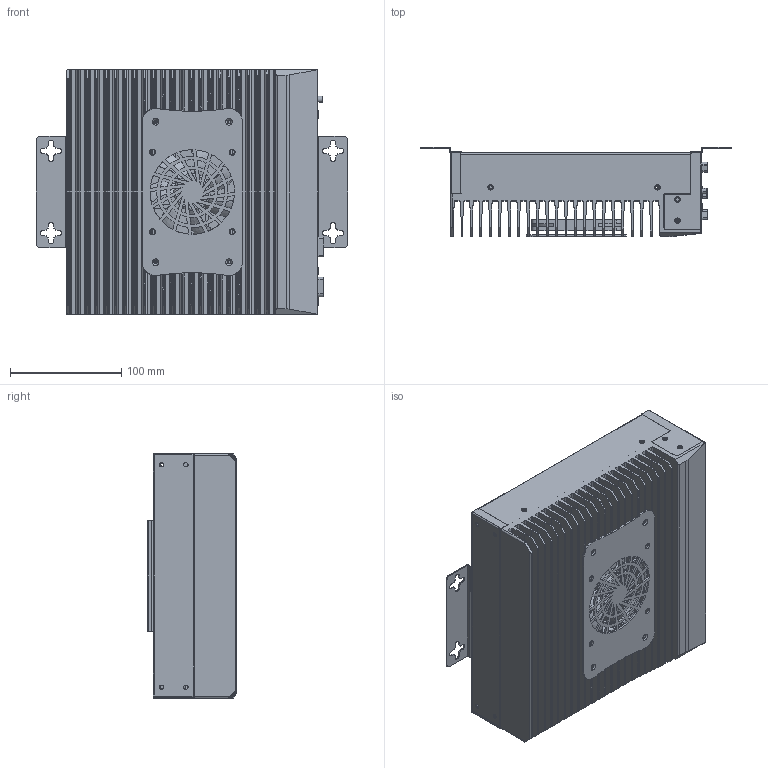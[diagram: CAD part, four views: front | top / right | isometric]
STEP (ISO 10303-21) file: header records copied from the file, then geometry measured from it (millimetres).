
FILE_DESCRIPTION((''),'2;1');
FILE_NAME('JIANHUA_1_1_1_1','2025-06-25T19:34:48',('Administrator'),(''),'CREO PARAMETRIC BY PTC INC, 2022073','CREO PARAMETRIC BY PTC INC, 2022073','');
FILE_SCHEMA(('AUTOMOTIVE_DESIGN { 1 0 10303 214 1 1 1 1 }'));
Products named in the file (1): JIANHUA_1_1_1_1
Bounding box: 279.7 x 80 x 220 mm (x, y, z)
Volume: 963908.7 mm3; surface area: 694188.6 mm2
Topology: 1 solids, 6 shells, 3429 faces, 9415 edges, 6071 vertices
Faces by surface type: plane 1853, cylinder 1281, torus 136, sphere 78, cone 54, bspline 27
Entity records: 143588 total; most frequent: CARTESIAN_POINT 25333, DIRECTION 18769, ORIENTED_EDGE 18658, PRESENTATION_STYLE_ASSIGNMENT 9423, STYLED_ITEM 9330, CURVE_STYLE 9329, EDGE_CURVE 9329, AXIS2_PLACEMENT_3D 6542
